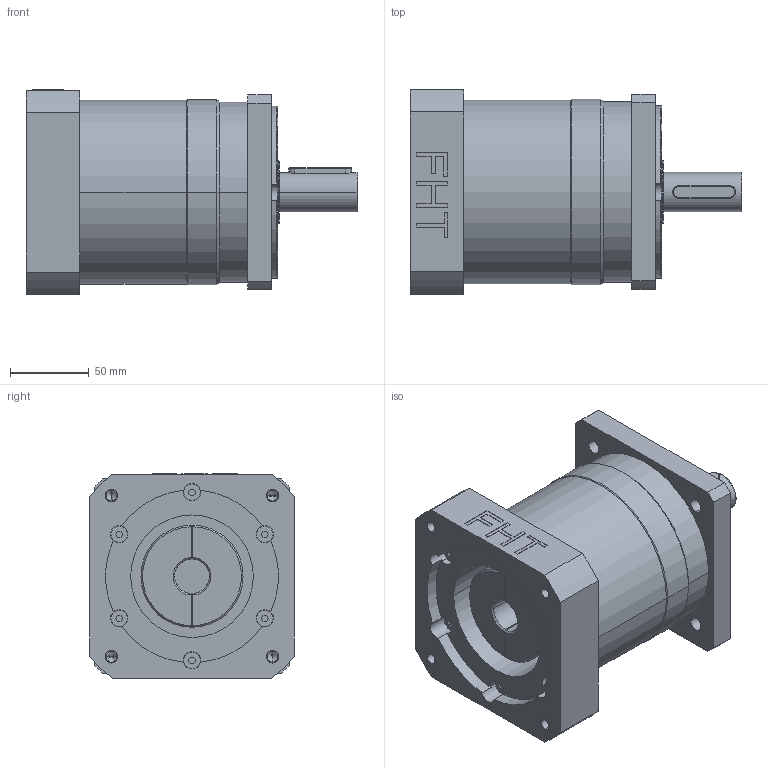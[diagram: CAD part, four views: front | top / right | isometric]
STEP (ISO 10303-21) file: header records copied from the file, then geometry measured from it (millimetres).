
FILE_DESCRIPTION((''),'2;1');
FILE_NAME('PLF120-L1','2016-06-15T',('Administrator'),(''),'PRO/ENGINEER BY PARAMETRIC TECHNOLOGY CORPORATION, 2012480','PRO/ENGINEER BY PARAMETRIC TECHNOLOGY CORPORATION, 2012480','');
FILE_SCHEMA(('AUTOMOTIVE_DESIGN { 1 0 10303 214 1 1 1 1 }'));
Length unit declared in the file: millimetre
Products named in the file (1): PLF120-L1
Bounding box: 211 x 130 x 130.3 mm (x, y, z)
Volume: 1827147 mm3; surface area: 144734.2 mm2
Topology: 1 solids, 6 shells, 294 faces, 744 edges, 485 vertices
Faces by surface type: plane 156, cylinder 108, cone 20, torus 10
Entity records: 11665 total; most frequent: CARTESIAN_POINT 1631, DIRECTION 1574, ORIENTED_EDGE 1448, PRESENTATION_STYLE_ASSIGNMENT 770, STYLED_ITEM 740, CURVE_STYLE 734, EDGE_CURVE 734, AXIS2_PLACEMENT_3D 563
